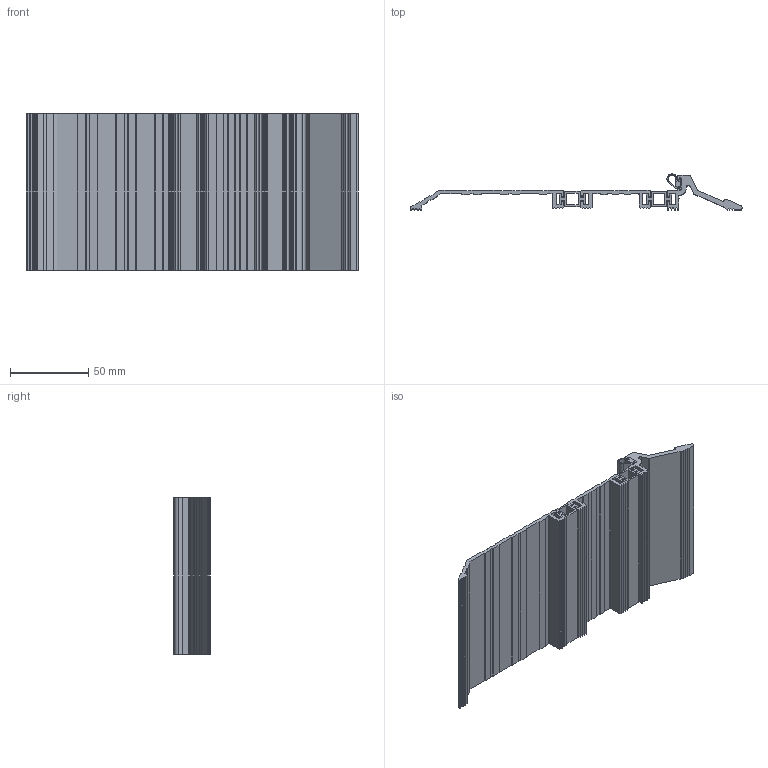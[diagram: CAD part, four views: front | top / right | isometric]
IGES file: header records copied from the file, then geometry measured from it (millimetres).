
Global section: file name: No Iges File Name specified; native system: Autodesk Inventor 2012; preprocessor: AutoDesk Inventor Iges Exporter R2012; author: anna.b; date: 20130718.140915; units: millimetre
Bounding box: 212.32 x 23.13 x 100 mm (x, y, z)
Volume: 87979.7 mm3; surface area: 87139.8 mm2
Topology: 6 solids, 6 shells, 370 faces, 1074 edges, 716 vertices
Faces by surface type: plane 285, cylinder 47, revolution 38
